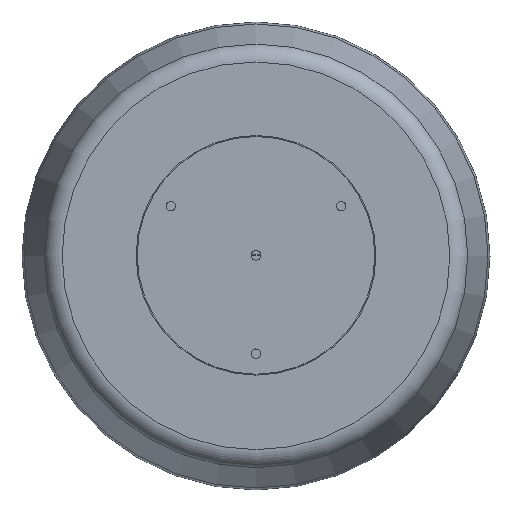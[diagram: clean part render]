
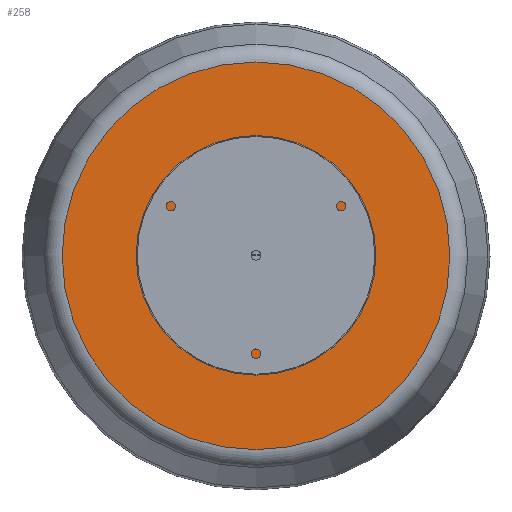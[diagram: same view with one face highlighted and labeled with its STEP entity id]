
A CAD part, top view. The second image highlights one B-rep face of the part: STEP entity #258.
In plain terms, the highlighted planar face has unit normal (0, 0, 1).
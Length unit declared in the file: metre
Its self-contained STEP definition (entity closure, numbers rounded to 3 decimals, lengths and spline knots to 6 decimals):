
#258 = ADVANCED_FACE( '', ( #370, #371 ), #372, .F. );
#370 = FACE_OUTER_BOUND( '', #503, .T. );
#371 = FACE_BOUND( '', #504, .T. );
#372 = PLANE( '', #505 );
#503 = EDGE_LOOP( '', ( #782 ) );
#504 = EDGE_LOOP( '', ( #783 ) );
#505 = AXIS2_PLACEMENT_3D( '', #784, #785, #786 );
#782 = ORIENTED_EDGE( '', *, *, #903, .F. );
#783 = ORIENTED_EDGE( '', *, *, #913, .T. );
#784 = CARTESIAN_POINT( '', ( -0.207108, 0., 0.10002 ) );
#785 = DIRECTION( '', ( 0., 0., -1. ) );
#786 = DIRECTION( '', ( -1., 0., 0. ) );
#903 = EDGE_CURVE( '', #1031, #1031, #1032, .T. );
#913 = EDGE_CURVE( '', #1051, #1051, #1052, .T. );
#1031 = VERTEX_POINT( '', #1313 );
#1032 = CIRCLE( '', #1314, 0.207108 );
#1051 = VERTEX_POINT( '', #1333 );
#1052 = CIRCLE( '', #1334, 0.09 );
#1313 = CARTESIAN_POINT( '', ( -0.207108, 0., 0.10002 ) );
#1314 = AXIS2_PLACEMENT_3D( '', #1442, #1443, #1444 );
#1333 = CARTESIAN_POINT( '', ( -0.09, 0., 0.10002 ) );
#1334 = AXIS2_PLACEMENT_3D( '', #1472, #1473, #1474 );
#1442 = CARTESIAN_POINT( '', ( 0., 0., 0.10002 ) );
#1443 = DIRECTION( '', ( 0., 0., -1. ) );
#1444 = DIRECTION( '', ( -1., 0., 0. ) );
#1472 = CARTESIAN_POINT( '', ( 0., 0., 0.10002 ) );
#1473 = DIRECTION( '', ( 0., 0., -1. ) );
#1474 = DIRECTION( '', ( -1., 0., 0. ) );
